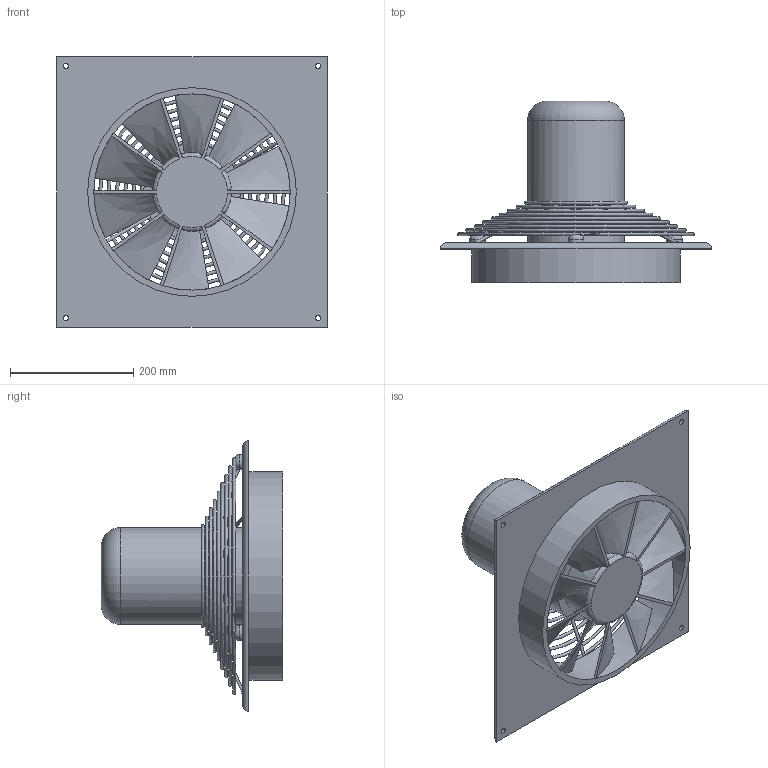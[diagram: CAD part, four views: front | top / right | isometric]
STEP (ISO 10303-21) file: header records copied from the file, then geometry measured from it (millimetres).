
FILE_DESCRIPTION(/* description */ (''),/* implementation_level */ '2;1');
FILE_NAME(/* name */ 'Z:\Output\HQD_315-2-01119-020.stp',/* time_stamp */ '2020-05-11T13:43:43+02:00',/* author */ ('pareshmistry'),/* organization */ (''),/* preprocessor_version */ 'ST-DEVELOPER v17.2',/* originating_system */ 'Autodesk Inventor 2019',/* authorisation */ '');
FILE_SCHEMA (('AUTOMOTIVE_DESIGN { 1 0 10303 214 3 1 1 }'));
Length unit declared in the file: millimetre
Products named in the file (1): HQW EC 450
Bounding box: 440 x 295 x 440 mm (x, y, z)
Volume: 7257747.4 mm3; surface area: 794072.4 mm2
Topology: 9 solids, 9 shells, 98 faces, 333 edges, 216 vertices
Faces by surface type: bspline 33, cylinder 23, plane 22, torus 20
Full cylindrical faces by diameter (mm): 5 x6, 9 x4, 25 x3, 128 x1, 157 x1, 319 x1, 339 x1
Entity records: 5498 total; most frequent: CARTESIAN_POINT 2605, ORIENTED_EDGE 706, DIRECTION 475, EDGE_CURVE 353, VERTEX_POINT 216, AXIS2_PLACEMENT_3D 192, B_SPLINE_CURVE_WITH_KNOTS 133, EDGE_LOOP 124
